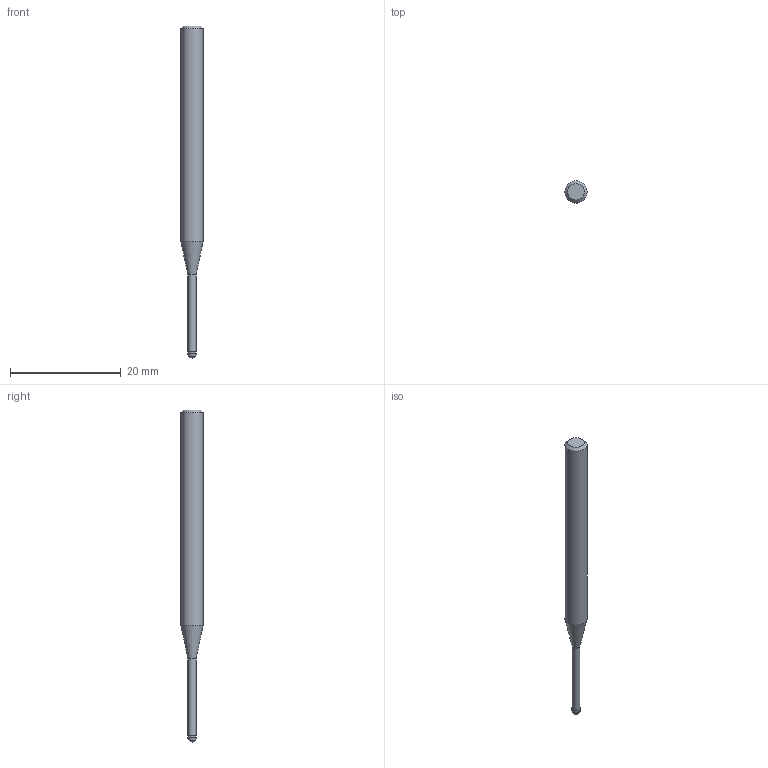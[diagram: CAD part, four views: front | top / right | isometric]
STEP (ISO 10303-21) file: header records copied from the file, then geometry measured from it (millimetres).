
FILE_DESCRIPTION((''),'2;1');
FILE_NAME('C:\Users\nsx150\AppData\Local\Temp\Mastercam 2021\EUJSUNXURU\TEMP.step','2021-04-22T10:22:47',(''),(''),'STEP Write','Mastercam 2021 ... CNC Software, Inc.','');
FILE_SCHEMA(('AUTOMOTIVE_DESIGN'));
Length unit declared in the file: millimetre
Products named in the file (1): None
Bounding box: 4 x 4 x 60 mm (x, y, z)
Volume: 550.7 mm3; surface area: 623.1 mm2
Topology: 2 solids, 2 shells, 9 faces, 14 edges, 8 vertices
Faces by surface type: plane 3, cylinder 3, cone 2, sphere 1
Full cylindrical faces by diameter (mm): 1.45 x1, 1.5 x1, 4 x1
Entity records: 211 total; most frequent: DIRECTION 36, CARTESIAN_POINT 25, AXIS2_PLACEMENT_3D 18, ORIENTED_EDGE 14, EDGE_LOOP 14, STYLED_ITEM 12, ADVANCED_FACE 9, FACE_BOUND 8
